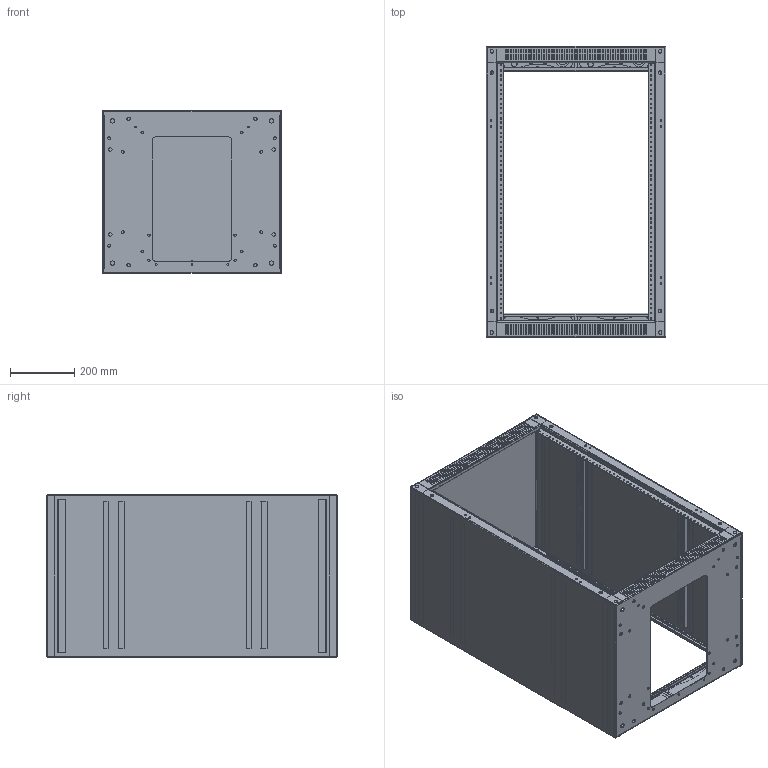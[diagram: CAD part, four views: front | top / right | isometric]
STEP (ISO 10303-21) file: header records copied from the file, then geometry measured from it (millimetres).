
FILE_DESCRIPTION((''),'2;1');
FILE_NAME('AERK-1820LRD_ASM','2016-07-29T',('rrenderos'),('Middle Atlantic Products'),'PRO/ENGINEER BY PARAMETRIC TECHNOLOGY CORPORATION, 2014310','PRO/ENGINEER BY PARAMETRIC TECHNOLOGY CORPORATION, 2014310','');
FILE_SCHEMA(('CONFIG_CONTROL_DESIGN'));
Length unit declared in the file: inch
Products named in the file (15): PERK20B_ASM; BE1820SL; BERRB20; BERK20LWB; PE1820SL_ASM; BE1820SR; PE1820SR_ASM; BERK20TF; PERK20TF_ASM; MERK-1820_ASM; BERK20B; PERR18; PKEKOPH; PKEKOPUHFH; AERK-1820LRD_ASM
Assembly tree (23 placements, depth 4):
  AERK-1820LRD_ASM
    MERK-1820_ASM
      PERK20B_ASM
      PE1820SL_ASM
        BE1820SL
        BERRB20  x2
        BERK20LWB  x2
      PE1820SR_ASM
        BE1820SR
        BERRB20  x2
        BERK20LWB  x2
      PERK20TF_ASM
        BERK20TF
    BERK20B
    PERR18  x2
    PKEKOPH  x2
    PKEKOPUHFH  x2
Bounding box: 558.8 x 904.75 x 508 mm (x, y, z)
Volume: 3600338 mm3; surface area: 4536006.3 mm2
Topology: 30 solids, 30 shells, 1976 faces, 5124 edges, 3200 vertices
Faces by surface type: plane 1016, cylinder 900, bspline 60
Entity records: 46347 total; most frequent: CARTESIAN_POINT 9330, DIRECTION 7812, ORIENTED_EDGE 7436, EDGE_CURVE 3718, AXIS2_PLACEMENT_3D 2761, VERTEX_POINT 2356, VECTOR 2290, LINE 2290
